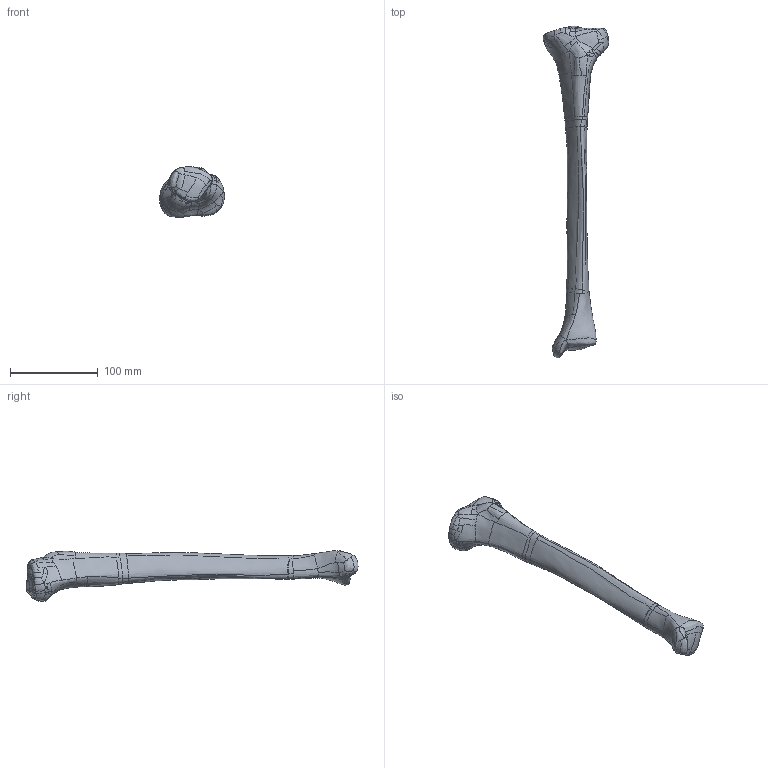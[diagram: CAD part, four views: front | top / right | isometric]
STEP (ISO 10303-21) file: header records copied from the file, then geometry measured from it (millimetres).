
FILE_DESCRIPTION (( 'STEP AP203' ), '1' );
FILE_NAME ('1117-131.STEP', '2025-05-26T19:20:50', ( '' ), ( '' ), 'SwSTEP 2.0', 'SolidWorks 2024', '' );
FILE_SCHEMA (( 'CONFIG_CONTROL_DESIGN' ));
Products named in the file (1): 1117-131
Bounding box: 74.22 x 377.95 x 57.87 mm (x, y, z)
Volume: 296489.2 mm3; surface area: 41987.8 mm2
Topology: 1 solids, 1 shells, 392 faces, 1033 edges, 657 vertices
Faces by surface type: bspline 389, plane 3
Entity records: 95288 total; most frequent: CARTESIAN_POINT 88810, ORIENTED_EDGE 2066, EDGE_CURVE 1033, B_SPLINE_CURVE_WITH_KNOTS 1033, VERTEX_POINT 657, EDGE_LOOP 406, ADVANCED_FACE 392, FACE_OUTER_BOUND 392
